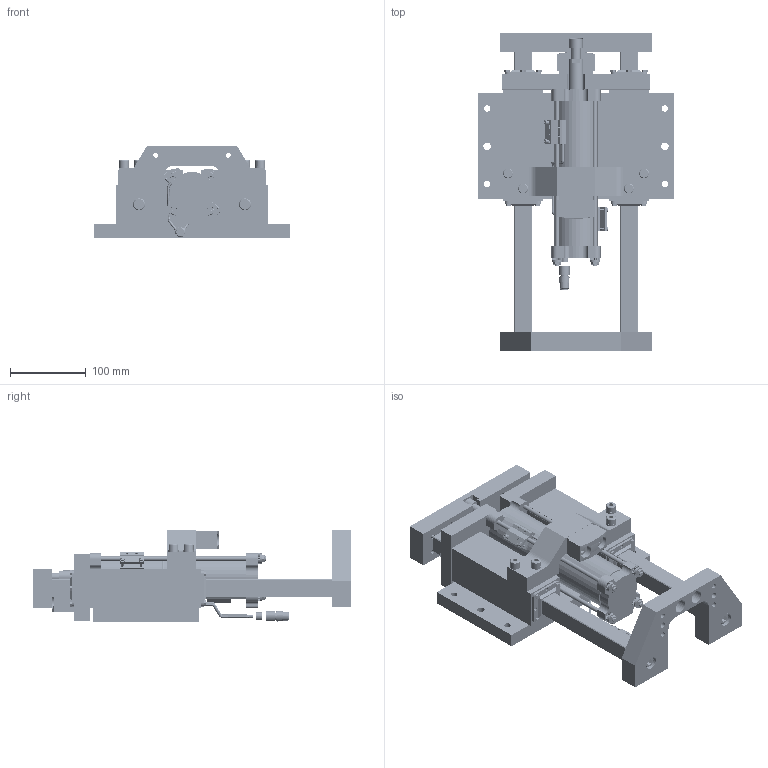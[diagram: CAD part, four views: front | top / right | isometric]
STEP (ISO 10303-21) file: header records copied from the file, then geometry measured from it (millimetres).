
FILE_DESCRIPTION(/* description */ (''),/* implementation_level */ '2;1');
FILE_NAME(/* name */ 'C:\Vault Workspace\CAD\Welker\Shot Pin\DBL24\STANDARD\DB2150B01XL3XXX0000-RET.stp',/* time_stamp */ '2018-03-26T07:59:22-04:00',/* author */ ('KLabrecque'),/* organization */ (''),/* preprocessor_version */ 'ST-DEVELOPER v17',/* originating_system */ 'Autodesk Inventor 2018',/* authorisation */ '');
FILE_SCHEMA (('AUTOMOTIVE_DESIGN { 1 0 10303 214 3 1 1 }'));
Products named in the file (1): DB2L01_Shrinkwrap_1
Bounding box: 260 x 421 x 120.8 mm (x, y, z)
Volume: 3160772.3 mm3; surface area: 761728.5 mm2
Topology: 131 solids, 131 shells, 4520 faces, 11855 edges, 7811 vertices
Faces by surface type: plane 2682, cylinder 1234, cone 526, bspline 56, torus 22
Full cylindrical faces by diameter (mm): 0.5 x1, 1.9 x2, 2.459 x4, 2.5 x1, 2.6 x2, 3 x8, 3.175 x22, 3.2 x6, 3.5 x4, 3.734 x16, 4 x2, 4.166 x16, 4.763 x32, 4.917 x12, 5 x2, 5.359 x8, 5.5 x4, 6 x12, 6.35 x2, 6.5 x28, 6.563 x16, 6.647 x8, 7 x8, 7.95 x4, 8 x32, 8.334 x12, 8.376 x12, 8.5 x16, 8.7 x16, 9.6 x1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
Entity records: 162141 total; most frequent: CARTESIAN_POINT 47902, ORIENTED_EDGE 23588, DIRECTION 21914, EDGE_CURVE 11794, AXIS2_PLACEMENT_3D 8339, VERTEX_POINT 7811, LINE 5236, VECTOR 5236
